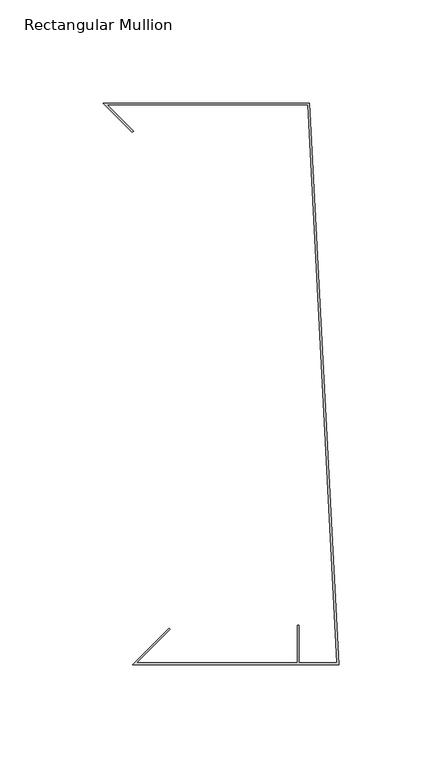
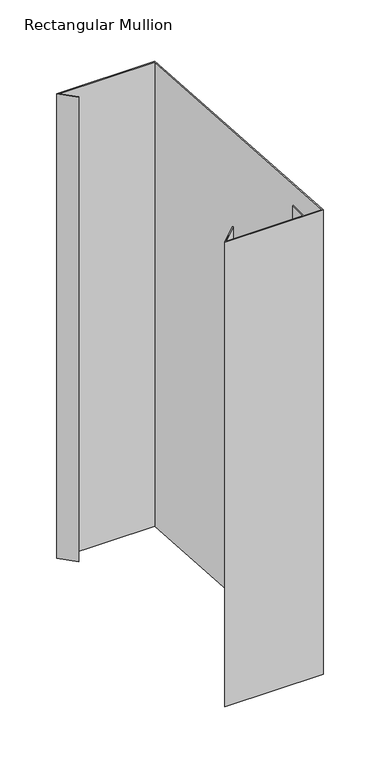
"""IFC4 building model written with IfcOpenShell, lengths in millimetres: member geometry, Rectangular Mullion : TI-V-03_01_Top parapet."""

from ifc_helpers import new_model, si_unit, frame, origin, place, context, project, spatial, polyline, outline, extrude, source, transform, mapped, element, save


def rectangular_mullion_25a7a2da(model_context):
    return source(origin(), model_context, "Body", "SweptSolid", [
        extrude(outline(polyline([(-100.0, -19.0), (-82.3223305, -1.3223305), (-81.756645, -1.8880159), (-98.0686292, -18.2), (-20.0, -18.2), (-20.0, 0.0), (-19.2, 0.0), (-19.2, -18.2), (-0.8430241, -18.2), (-15.0140876, 252.2), (-112.3235451, 252.2), (-99.5470949, 239.4235498), (-100.1127803, 238.8578644), (-114.254916, 253.0), (-14.254916, 253.0), (0.0, -19.0), (-100.0, -19.0)])), frame((0.0, 0.0, -499.9999997), z_axis=(0.0, 0.0, 1.0), x_axis=(1.0, 0.0, 0.0)), (0.0, 0.0, 1.0), 499.9999997),
    ])


if __name__ == "__main__":
    model = new_model("IFC4")
    model_context = context("Model", 3, world=origin())
    ifc_project = project(units=[si_unit("LENGTHUNIT", "METRE", prefix="MILLI")], contexts=[model_context])
    site = spatial("IfcSite", under=ifc_project)
    building = spatial("IfcBuilding", under=site)
    placement = place(None, origin())
    rectangular_mullion_shape = rectangular_mullion_25a7a2da(model_context)
    element("IfcMember", 1, ObjectType="Rectangular Mullion : TI-V-03_01_Top parapet", at=placement, inside=building, context=model_context, shape_type="MappedRepresentation", body=[
        mapped(rectangular_mullion_shape, transform((0.0, 0.0, 0.0), x_axis=(1.0, 0.0, 0.0), y_axis=(0.0, 1.0, 0.0), z_axis=(0.0, 0.0, 1.0))),
    ])
    save(model, "model.ifc")
